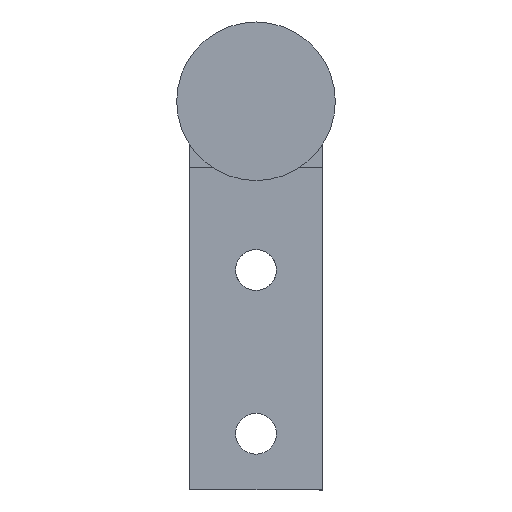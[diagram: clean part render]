
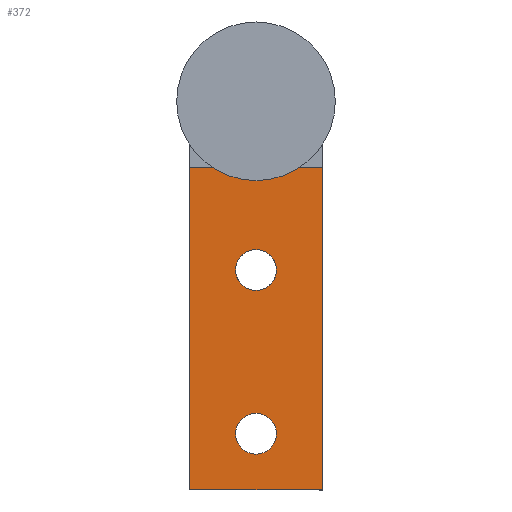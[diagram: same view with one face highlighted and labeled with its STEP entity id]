
A CAD part, front view. The second image highlights one B-rep face of the part: STEP entity #372.
In plain terms, the highlighted planar face has unit normal (0, -1, 0).
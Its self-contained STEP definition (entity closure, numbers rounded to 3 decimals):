
#2 = CARTESIAN_POINT ( 'NONE',  ( 6.5, 489.8, -38. ) ) ;
#9 = VERTEX_POINT ( 'NONE', #2 ) ;
#13 = VERTEX_POINT ( 'NONE', #449 ) ;
#14 = VERTEX_POINT ( 'NONE', #397 ) ;
#18 = VERTEX_POINT ( 'NONE', #395 ) ;
#20 = VERTEX_POINT ( 'NONE', #391 ) ;
#29 = VERTEX_POINT ( 'NONE', #381 ) ;
#34 = VERTEX_POINT ( 'NONE', #419 ) ;
#39 = VERTEX_POINT ( 'NONE', #425 ) ;
#56 = ORIENTED_EDGE ( 'NONE', *, *, #237, .T. ) ;
#63 = ORIENTED_EDGE ( 'NONE', *, *, #245, .T. ) ;
#102 = ORIENTED_EDGE ( 'NONE', *, *, #181, .F. ) ;
#111 = ORIENTED_EDGE ( 'NONE', *, *, #226, .F. ) ;
#112 = ORIENTED_EDGE ( 'NONE', *, *, #175, .F. ) ;
#113 = ORIENTED_EDGE ( 'NONE', *, *, #224, .F. ) ;
#118 = ORIENTED_EDGE ( 'NONE', *, *, #233, .F. ) ;
#122 = ORIENTED_EDGE ( 'NONE', *, *, #234, .F. ) ;
#175 = EDGE_CURVE ( 'NONE', #14, #18, #284, .T. ) ;
#181 = EDGE_CURVE ( 'NONE', #13, #34, #249, .T. ) ;
#204 = AXIS2_PLACEMENT_3D ( 'NONE', #437, #439, #441 ) ;
#213 = AXIS2_PLACEMENT_3D ( 'NONE', #344, #349, #430 ) ;
#224 = EDGE_CURVE ( 'NONE', #34, #13, #286, .T. ) ;
#226 = EDGE_CURVE ( 'NONE', #18, #14, #258, .T. ) ;
#229 = AXIS2_PLACEMENT_3D ( 'NONE', #590, #602, #603 ) ;
#233 = EDGE_CURVE ( 'NONE', #39, #29, #641, .T. ) ;
#234 = EDGE_CURVE ( 'NONE', #9, #39, #658, .T. ) ;
#236 = AXIS2_PLACEMENT_3D ( 'NONE', #504, #491, #490 ) ;
#237 = EDGE_CURVE ( 'NONE', #9, #20, #649, .T. ) ;
#244 = AXIS2_PLACEMENT_3D ( 'NONE', #509, #496, #495 ) ;
#245 = EDGE_CURVE ( 'NONE', #20, #29, #640, .T. ) ;
#249 = CIRCLE ( 'NONE', #204, 2. ) ;
#258 = CIRCLE ( 'NONE', #236, 2. ) ;
#284 = CIRCLE ( 'NONE', #213, 2. ) ;
#286 = CIRCLE ( 'NONE', #244, 2. ) ;
#311 = FACE_BOUND ( 'NONE', #730, .T. ) ;
#313 = FACE_BOUND ( 'NONE', #695, .T. ) ;
#325 = FACE_OUTER_BOUND ( 'NONE', #682, .T. ) ;
#344 = CARTESIAN_POINT ( 'NONE',  ( 0., 489.8, -16.5 ) ) ;
#349 = DIRECTION ( 'NONE',  ( 0., -1., 0. ) ) ;
#372 = ADVANCED_FACE ( 'NONE', ( #311, #313, #325 ), #589, .T. ) ;
#381 = CARTESIAN_POINT ( 'NONE',  ( -6.5, 489.8, -6.5 ) ) ;
#391 = CARTESIAN_POINT ( 'NONE',  ( 6.5, 489.8, -6.5 ) ) ;
#395 = CARTESIAN_POINT ( 'NONE',  ( -2., 489.8, -16.5 ) ) ;
#397 = CARTESIAN_POINT ( 'NONE',  ( 2., 489.8, -16.5 ) ) ;
#419 = CARTESIAN_POINT ( 'NONE',  ( -2., 489.8, -32.5 ) ) ;
#425 = CARTESIAN_POINT ( 'NONE',  ( -6.5, 489.8, -38. ) ) ;
#430 = DIRECTION ( 'NONE',  ( -1., 0., 0. ) ) ;
#437 = CARTESIAN_POINT ( 'NONE',  ( 0., 489.8, -32.5 ) ) ;
#439 = DIRECTION ( 'NONE',  ( 0., -1., 0. ) ) ;
#441 = DIRECTION ( 'NONE',  ( -1., 0., 0. ) ) ;
#449 = CARTESIAN_POINT ( 'NONE',  ( 2., 489.8, -32.5 ) ) ;
#463 = DIRECTION ( 'NONE',  ( -1., 0., 0. ) ) ;
#465 = CARTESIAN_POINT ( 'NONE',  ( 6.5, 489.8, -6.5 ) ) ;
#477 = DIRECTION ( 'NONE',  ( 0., 0., 1. ) ) ;
#478 = CARTESIAN_POINT ( 'NONE',  ( 6.5, 489.8, -38. ) ) ;
#479 = DIRECTION ( 'NONE',  ( -1., 0., 0. ) ) ;
#481 = CARTESIAN_POINT ( 'NONE',  ( 6.5, 489.8, -38. ) ) ;
#482 = DIRECTION ( 'NONE',  ( 0., 0., 1. ) ) ;
#483 = CARTESIAN_POINT ( 'NONE',  ( -6.5, 489.8, -38. ) ) ;
#490 = DIRECTION ( 'NONE',  ( -1., 0., 0. ) ) ;
#491 = DIRECTION ( 'NONE',  ( 0., -1., 0. ) ) ;
#495 = DIRECTION ( 'NONE',  ( -1., 0., 0. ) ) ;
#496 = DIRECTION ( 'NONE',  ( 0., -1., 0. ) ) ;
#504 = CARTESIAN_POINT ( 'NONE',  ( 0., 489.8, -16.5 ) ) ;
#509 = CARTESIAN_POINT ( 'NONE',  ( 0., 489.8, -32.5 ) ) ;
#589 = PLANE ( 'NONE',  #229 ) ;
#590 = CARTESIAN_POINT ( 'NONE',  ( 6.5, 489.8, -38. ) ) ;
#602 = DIRECTION ( 'NONE',  ( 0., -1., 0. ) ) ;
#603 = DIRECTION ( 'NONE',  ( -1., 0., 0. ) ) ;
#638 = VECTOR ( 'NONE', #477, 1000. ) ;
#640 = LINE ( 'NONE', #465, #653 ) ;
#641 = LINE ( 'NONE', #483, #650 ) ;
#649 = LINE ( 'NONE', #478, #638 ) ;
#650 = VECTOR ( 'NONE', #482, 1000. ) ;
#653 = VECTOR ( 'NONE', #463, 1000. ) ;
#655 = VECTOR ( 'NONE', #479, 1000. ) ;
#658 = LINE ( 'NONE', #481, #655 ) ;
#682 = EDGE_LOOP ( 'NONE', ( #63, #118, #122, #56 ) ) ;
#695 = EDGE_LOOP ( 'NONE', ( #113, #102 ) ) ;
#730 = EDGE_LOOP ( 'NONE', ( #111, #112 ) ) ;
